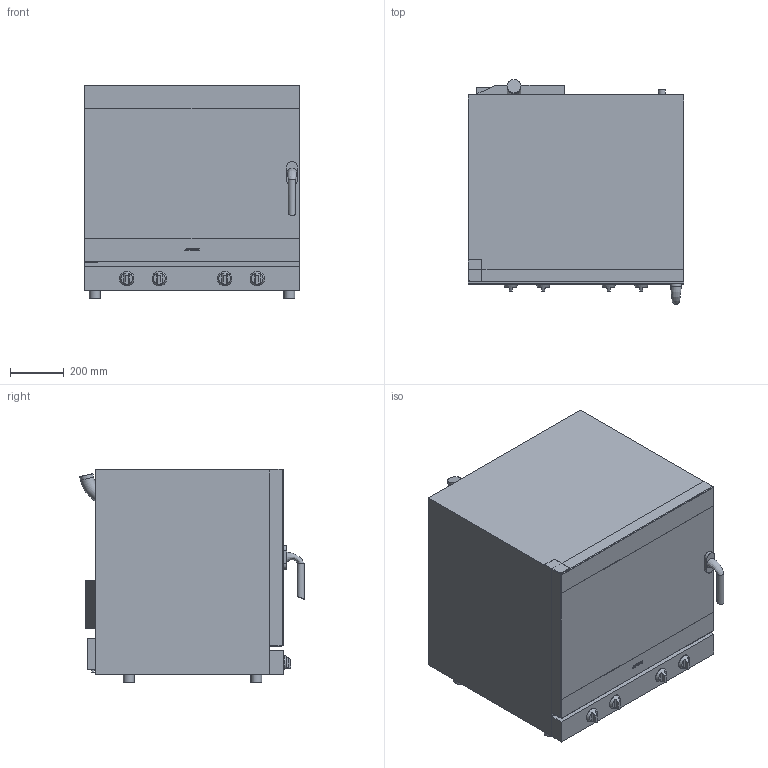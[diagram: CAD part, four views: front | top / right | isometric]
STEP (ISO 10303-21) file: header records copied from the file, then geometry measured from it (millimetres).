
FILE_DESCRIPTION(/* description */ (''),/* implementation_level */ '2;1');
FILE_NAME(/* name */ 'forno prof alfa625h.stp',/* time_stamp */ '2018-03-21T10:23:53+01:00',/* author */ (''),/* organization */ (''),/* preprocessor_version */ 'ST-DEVELOPER v16',/* originating_system */ 'SIEMENS PLM Software NX 11.0',/* authorisation */ '');
FILE_SCHEMA (('AUTOMOTIVE_DESIGN { 1 0 10303 214 3 1 1 1 }'));
Length unit declared in the file: millimetre
Products named in the file (1): gobb167095B2xm56
Bounding box: 798 x 832.97 x 791.9 mm (x, y, z)
Volume: 425311260.3 mm3; surface area: 7318207.5 mm2
Topology: 23 solids, 23 shells, 221 faces, 482 edges, 317 vertices
Faces by surface type: plane 145, cylinder 59, extrusion 11, cone 4, bspline 1, torus 1
Full cylindrical faces by diameter (mm): 4.608 x6, 5 x1, 10 x2, 18.363 x1, 20 x4, 26 x1, 27 x1, 40 x4, 50 x1, 54 x4
Entity records: 6784 total; most frequent: CARTESIAN_POINT 1893, DIRECTION 938, ORIENTED_EDGE 888, EDGE_CURVE 444, AXIS2_PLACEMENT_3D 323, VERTEX_POINT 311, VECTOR 292, LINE 281
